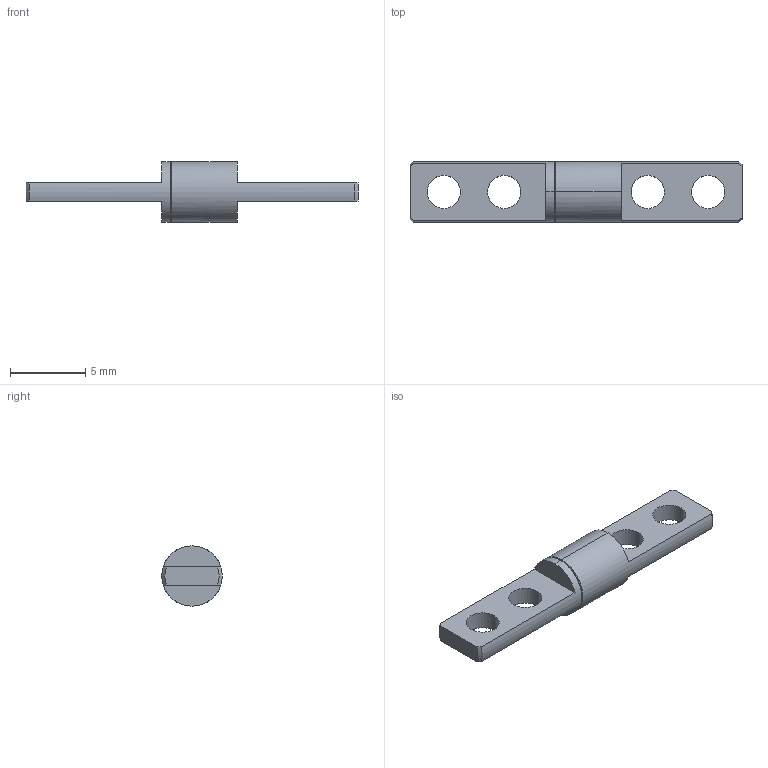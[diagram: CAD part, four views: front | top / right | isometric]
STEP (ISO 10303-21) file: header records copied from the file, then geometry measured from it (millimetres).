
FILE_DESCRIPTION (( 'STEP AP203' ), '1' );
FILE_NAME ('XG11-076-1.STEP', '2025-07-04T06:16:35', ( '微软用户' ), ( '微软中国' ), 'SwSTEP 2.0', 'SolidWorks 2024', '' );
FILE_SCHEMA (( 'CONFIG_CONTROL_DESIGN' ));
Length unit declared in the file: millimetre
Products named in the file (1): XG11-076-1
Bounding box: 22 x 4 x 4 mm (x, y, z)
Volume: 124.8 mm3; surface area: 261.9 mm2
Topology: 1 solids, 1 shells, 30 faces, 78 edges, 50 vertices
Faces by surface type: cylinder 12, plane 10, torus 4, cone 4
Entity records: 1037 total; most frequent: CARTESIAN_POINT 183, DIRECTION 174, ORIENTED_EDGE 156, EDGE_CURVE 78, AXIS2_PLACEMENT_3D 73, VERTEX_POINT 50, CIRCLE 42, EDGE_LOOP 38
